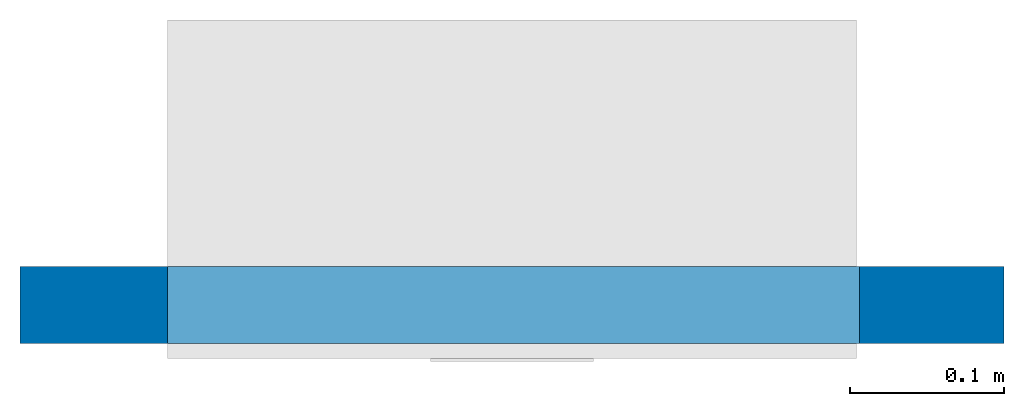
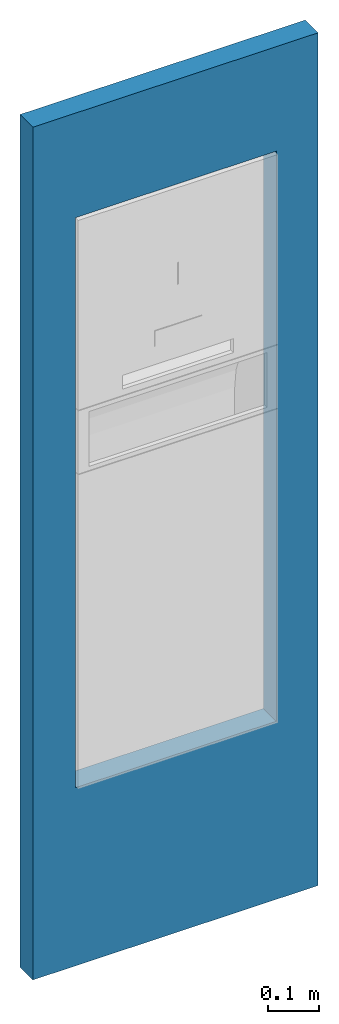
# One storey, part 1 of 2: 1 wall, 1 opening.
"""IFC2X3 building model written with IfcOpenShell, lengths in millimetres."""

from ifc_helpers import new_model, entity, si_unit, converted_unit, derived_unit, direction, frame, frame_2d, origin, origin_2d_with_axis, place, context, subcontext, project, spatial, rectangle, extrude, material, layer, layer_set, layer_usage, type_object, element, save


model = new_model("IFC2X3")

# Units and contexts
model_context = context("Model", 3, precision=1e-05, world=origin(), true_north=direction((2.0, 6.12303176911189e-17, 1.0)))
context_of_model = context(None, 3, precision=1e-05, world=origin(), true_north=direction((2.0, 6.12303176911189e-17, 1.0)))
body_context = subcontext(model_context, "Body", "Model", "MODEL_VIEW")
ifc_project = project(units=[si_unit("LENGTHUNIT", "METRE", prefix="MILLI"), si_unit("AREAUNIT", "SQUARE_METRE"), si_unit("VOLUMEUNIT", "CUBIC_METRE"), converted_unit("PLANEANGLEUNIT", "DEGREE", entity("IfcRatioMeasure", 0.0174532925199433), si_unit("PLANEANGLEUNIT", "RADIAN"), dimensions=[0, 0, 0, 0, 0, 0, 0]), si_unit("MASSUNIT", "GRAM", prefix="KILO"), si_unit("TIMEUNIT", "SECOND"), si_unit("THERMODYNAMICTEMPERATUREUNIT", "KELVIN"), derived_unit("THERMALTRANSMITTANCEUNIT", [(si_unit("MASSUNIT", "GRAM", prefix="KILO"), 1), (si_unit("THERMODYNAMICTEMPERATUREUNIT", "KELVIN"), -1), (si_unit("TIMEUNIT", "SECOND"), -3)]), derived_unit("VOLUMETRICFLOWRATEUNIT", [(si_unit("LENGTHUNIT", "METRE"), 3), (si_unit("TIMEUNIT", "SECOND"), -1)]), si_unit("POWERUNIT", "WATT")], contexts=[model_context, context_of_model])

# Site, building, storey
site_placement = place(None, origin())
site = spatial("IfcSite", under=ifc_project, at=site_placement, Name="Default", CompositionType="ELEMENT")
building_placement = place(site_placement, origin())
building = spatial("IfcBuilding", under=site, at=building_placement, CompositionType="ELEMENT")
storey_placement = place(building_placement, origin())
storey = spatial("IfcBuildingStorey", under=building, at=storey_placement, Name="Level 1", CompositionType="ELEMENT", Elevation=0.0)

# Wall, opening
ifc_material = material(Name="Default Wall")
ifc_layer = layer(ifc_material, 50.0)
ifc_layer_set = layer_set([ifc_layer], Name="Basic Wall:Wall 1")
ifc_layer_usage = layer_usage(ifc_layer_set, "AXIS2", "NEGATIVE", 25.0)
wall_type = type_object("IfcWallType", Name="Basic Wall:Wall 1", PredefinedType="STANDARD", material=ifc_layer_set)
wall_placement = place(storey_placement, frame((-320.747736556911, 3977.69853342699, -389.199586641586)))
wall = element("IfcWallStandardCase", 1, at=wall_placement, inside=storey, type_object=wall_type, material=ifc_layer_usage, Name="Basic Wall:Wall 1:3092", ObjectType="Basic Wall:Wall 1:1494", context=body_context, shape_type="SweptSolid", body=[
    extrude(rectangle(XDim=640.0, YDim=49.9999999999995, at=frame_2d((320.0, 0.0), x_axis=(-1.0, 0.0))), origin(), (0.0, 0.0, 1.0), 2022.20175462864),
])
opening_placement = place(wall_placement, origin())
element("IfcOpeningElement", 2, at=opening_placement, cuts=wall, ObjectType="Opening", context=body_context, shape_type="SweptSolid", body=[
    extrude(rectangle(XDim=1351.96237250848, YDim=450.041822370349, at=origin_2d_with_axis()), frame((320.918452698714, -25.0, 1098.35388369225), z_axis=(0.0, 1.0, 0.0), x_axis=(0.0, 0.0, -1.0)), (0.0, 0.0, 1.0), 49.9999999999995),
])

save(model, "model.ifc")
